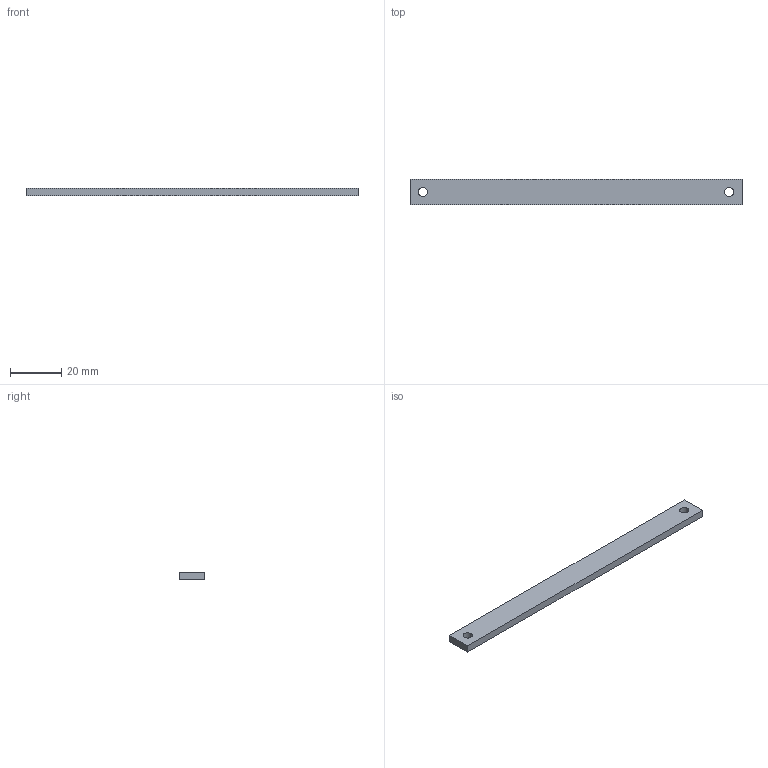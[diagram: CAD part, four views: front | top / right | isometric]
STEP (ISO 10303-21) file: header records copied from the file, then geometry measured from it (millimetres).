
FILE_DESCRIPTION(/* description */ ('STEP AP242 Edition 2','CAx-IF Rec.Pracs.---Representation and Presentation of Product Manufacturing Information (PMI)---4.0---2014-10-13','CAx-IF Rec.Pracs.---3D Tessellated Geometry---0.4---2014-09-14','2;1','CAx-IF Rec.Pracs.---User Defined Attributes---1.5---2016-08-15'),/* implementation_level */ '2;1');
FILE_NAME(/* name */ 'Arm Parts - Link',/* time_stamp */ '2026-04-22T00:06:33Z',/* author */ (''),/* organization */ (''),/* preprocessor_version */ 'ST-DEVELOPER v20',/* originating_system */ 'ONSHAPE BY PTC INC, 1.213',/* authorisation */ ' ');
FILE_SCHEMA (('AP242_MANAGED_MODEL_BASED_3D_ENGINEERING_MIM_LF { 1 0 10303 442 3 1 4 }'));
Length unit declared in the file: metre
Products named in the file (1): Link
Bounding box: 130 x 10 x 3 mm (x, y, z)
Volume: 3838.9 mm3; surface area: 3467.1 mm2
Topology: 1 solids, 1 shells, 8 faces, 18 edges, 12 vertices
Faces by surface type: plane 6, cylinder 2
Full cylindrical faces by diameter (mm): 3.6 x2
Entity records: 246 total; most frequent: DIRECTION 38, CARTESIAN_POINT 37, ORIENTED_EDGE 32, EDGE_CURVE 16, EDGE_LOOP 14, FACE_BOUND 14, AXIS2_PLACEMENT_3D 13, VERTEX_POINT 12
